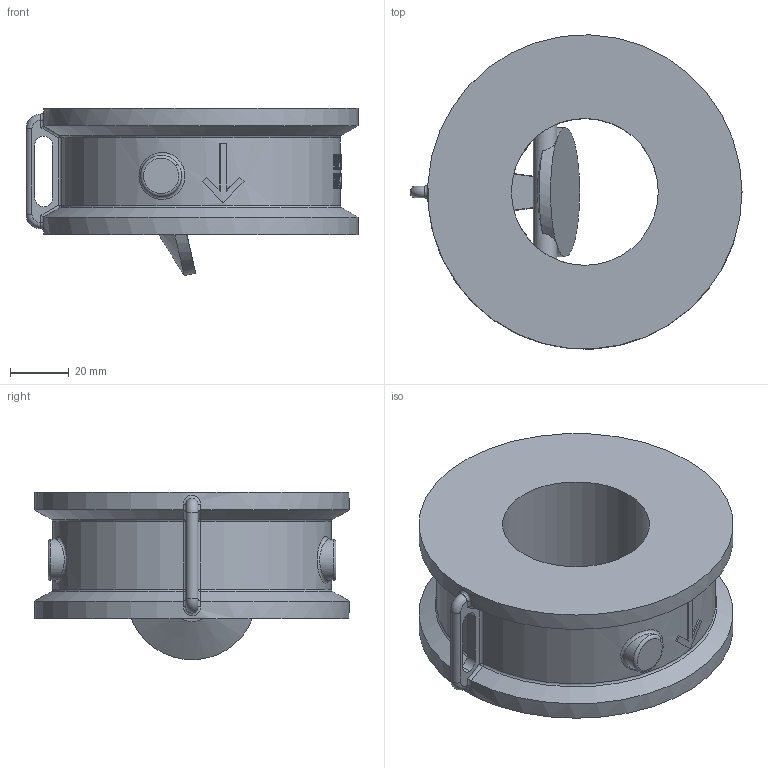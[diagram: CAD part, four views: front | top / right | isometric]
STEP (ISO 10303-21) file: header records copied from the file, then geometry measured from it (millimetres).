
FILE_DESCRIPTION( ( 'Unknown' ), '1' );
FILE_NAME( 'C:/Documents and Settings/Klaus/My Documents/Rootsi BPS 3D, Klaus/BPS 6530 tilting disc check valve/STEP/BPS6530050 tilting disc check valve DN50.stp', 'Unknown', ( 'Unknown' ), ( 'Unknown' ), 'PSStep 10.1', 'Unknown', ' ' );
FILE_SCHEMA( ( 'AUTOMOTIVE_DESIGN { 1 0 10303 214 1 1 1 1 }' ) );
Length unit declared in the file: millimetre
Products named in the file (1): 1
Bounding box: 113 x 106.96 x 56.98 mm (x, y, z)
Volume: 263066.5 mm3; surface area: 41349.6 mm2
Topology: 1 solids, 1 shells, 228 faces, 555 edges, 362 vertices
Faces by surface type: bspline 82, plane 77, cylinder 55, torus 6, cone 4, sphere 4
Full cylindrical faces by diameter (mm): 8 x1, 50 x1, 107 x2
Entity records: 19486 total; most frequent: CARTESIAN_POINT 13447, ORIENTED_EDGE 1064, EDGE_CURVE 532, DIRECTION 452, B_SPLINE_CURVE_WITH_KNOTS 435, VERTEX_POINT 355, EDGE_LOOP 285, FACE_OUTER_BOUND 242
